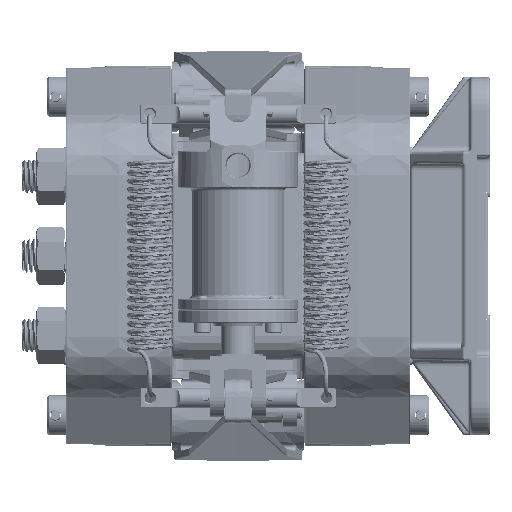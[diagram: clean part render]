
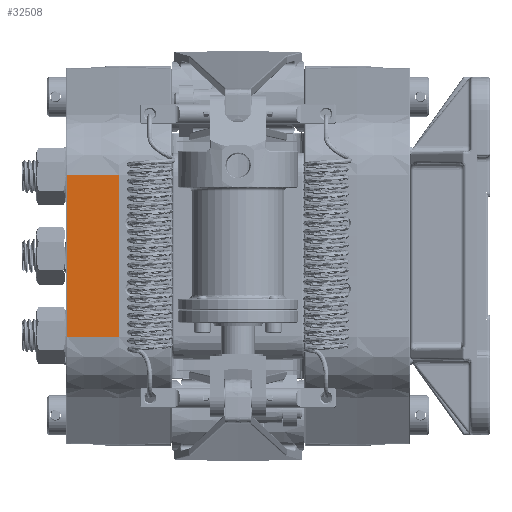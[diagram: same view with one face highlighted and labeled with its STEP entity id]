
A CAD part, left-side view. The second image highlights one B-rep face of the part: STEP entity #32508.
In plain terms, the highlighted planar face has unit normal (-1, 0.018, 0).
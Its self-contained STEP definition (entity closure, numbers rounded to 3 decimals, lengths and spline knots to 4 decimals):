
#2447 = DIRECTION ( 'NONE',  ( -0.017, -1., 0. ) ) ;
#4260 = LINE ( 'NONE', #59024, #11620 ) ;
#11465 = ORIENTED_EDGE ( 'NONE', *, *, #164075, .F. ) ;
#11620 = VECTOR ( 'NONE', #17942, 39.3701 ) ;
#12751 = CARTESIAN_POINT ( 'NONE',  ( -4.0356, 2.25, -1.5219 ) ) ;
#15112 = CARTESIAN_POINT ( 'NONE',  ( -4.0356, 2.25, -1.5219 ) ) ;
#17059 = LINE ( 'NONE', #55627, #158163 ) ;
#17274 = VERTEX_POINT ( 'NONE', #72937 ) ;
#17942 = DIRECTION ( 'NONE',  ( -0.017, -1., 0. ) ) ;
#22450 = EDGE_CURVE ( 'NONE', #73270, #92332, #156252, .T. ) ;
#26701 = CARTESIAN_POINT ( 'NONE',  ( -4.0356, 2.25, -1.5219 ) ) ;
#32508 = ADVANCED_FACE ( 'NONE', ( #119888 ), #157693, .T. ) ;
#34187 = ORIENTED_EDGE ( 'NONE', *, *, #81748, .T. ) ;
#38695 = DIRECTION ( 'NONE',  ( 0., 0., -1. ) ) ;
#40842 = CARTESIAN_POINT ( 'NONE',  ( -4.0187, 3.2193, -1.5219 ) ) ;
#41682 = LINE ( 'NONE', #40842, #138971 ) ;
#41881 = EDGE_CURVE ( 'NONE', #17274, #73270, #108091, .T. ) ;
#48980 = VERTEX_POINT ( 'NONE', #91796 ) ;
#52257 = CARTESIAN_POINT ( 'NONE',  ( -4.0356, 2.25, 0.375 ) ) ;
#53120 = LINE ( 'NONE', #105476, #66872 ) ;
#54905 = CARTESIAN_POINT ( 'NONE',  ( -4.0356, 2.25, -0.875 ) ) ;
#55370 = DIRECTION ( 'NONE',  ( 0., 0., -1. ) ) ;
#55627 = CARTESIAN_POINT ( 'NONE',  ( -4.0356, 2.25, -1.5219 ) ) ;
#59024 = CARTESIAN_POINT ( 'NONE',  ( -4.0356, 2.25, 1.5219 ) ) ;
#61011 = CARTESIAN_POINT ( 'NONE',  ( -4.0356, 2.25, -1.5219 ) ) ;
#63332 = EDGE_CURVE ( 'NONE', #48980, #146221, #4260, .T. ) ;
#63363 = CARTESIAN_POINT ( 'NONE',  ( -4.0187, 3.2193, -1.5219 ) ) ;
#63885 = DIRECTION ( 'NONE',  ( 0., 0., -1. ) ) ;
#66872 = VECTOR ( 'NONE', #157818, 39.3701 ) ;
#71048 = VERTEX_POINT ( 'NONE', #52257 ) ;
#72429 = CARTESIAN_POINT ( 'NONE',  ( -4.0356, 2.25, 0.875 ) ) ;
#72577 = AXIS2_PLACEMENT_3D ( 'NONE', #12751, #93301, #2447 ) ;
#72937 = CARTESIAN_POINT ( 'NONE',  ( -4.0356, 2.25, -0.375 ) ) ;
#73270 = VERTEX_POINT ( 'NONE', #54905 ) ;
#79302 = LINE ( 'NONE', #154028, #141914 ) ;
#81748 = EDGE_CURVE ( 'NONE', #48980, #155165, #41682, .T. ) ;
#89065 = ORIENTED_EDGE ( 'NONE', *, *, #22450, .F. ) ;
#90689 = ORIENTED_EDGE ( 'NONE', *, *, #63332, .F. ) ;
#91796 = CARTESIAN_POINT ( 'NONE',  ( -4.0187, 3.2193, 1.5219 ) ) ;
#92332 = VERTEX_POINT ( 'NONE', #15112 ) ;
#93301 = DIRECTION ( 'NONE',  ( -1., 0.017, 0. ) ) ;
#93503 = CARTESIAN_POINT ( 'NONE',  ( -4.0356, 2.25, -1.5219 ) ) ;
#94291 = ORIENTED_EDGE ( 'NONE', *, *, #146217, .F. ) ;
#96988 = EDGE_CURVE ( 'NONE', #71048, #17274, #112523, .T. ) ;
#99103 = VERTEX_POINT ( 'NONE', #72429 ) ;
#101689 = VECTOR ( 'NONE', #164869, 39.3701 ) ;
#104704 = ORIENTED_EDGE ( 'NONE', *, *, #41881, .F. ) ;
#105476 = CARTESIAN_POINT ( 'NONE',  ( -4.0356, 2.25, -1.5219 ) ) ;
#108091 = LINE ( 'NONE', #93503, #136180 ) ;
#112523 = LINE ( 'NONE', #61011, #101689 ) ;
#119157 = CARTESIAN_POINT ( 'NONE',  ( -4.0356, 2.25, 1.5219 ) ) ;
#119888 = FACE_OUTER_BOUND ( 'NONE', #130250, .T. ) ;
#130250 = EDGE_LOOP ( 'NONE', ( #90689, #34187, #155134, #89065, #104704, #163056, #94291, #11465 ) ) ;
#136180 = VECTOR ( 'NONE', #158750, 39.3701 ) ;
#136249 = DIRECTION ( 'NONE',  ( -0.017, -1., 0. ) ) ;
#138971 = VECTOR ( 'NONE', #55370, 39.3701 ) ;
#141914 = VECTOR ( 'NONE', #63885, 39.3701 ) ;
#146217 = EDGE_CURVE ( 'NONE', #99103, #71048, #53120, .T. ) ;
#146221 = VERTEX_POINT ( 'NONE', #119157 ) ;
#150905 = EDGE_CURVE ( 'NONE', #155165, #92332, #17059, .T. ) ;
#153636 = VECTOR ( 'NONE', #38695, 39.3701 ) ;
#154028 = CARTESIAN_POINT ( 'NONE',  ( -4.0356, 2.25, -1.5219 ) ) ;
#155134 = ORIENTED_EDGE ( 'NONE', *, *, #150905, .T. ) ;
#155165 = VERTEX_POINT ( 'NONE', #63363 ) ;
#156252 = LINE ( 'NONE', #26701, #153636 ) ;
#157693 = PLANE ( 'NONE',  #72577 ) ;
#157818 = DIRECTION ( 'NONE',  ( 0., 0., -1. ) ) ;
#158163 = VECTOR ( 'NONE', #136249, 39.3701 ) ;
#158750 = DIRECTION ( 'NONE',  ( 0., 0., -1. ) ) ;
#163056 = ORIENTED_EDGE ( 'NONE', *, *, #96988, .F. ) ;
#164075 = EDGE_CURVE ( 'NONE', #146221, #99103, #79302, .T. ) ;
#164869 = DIRECTION ( 'NONE',  ( 0., 0., -1. ) ) ;
